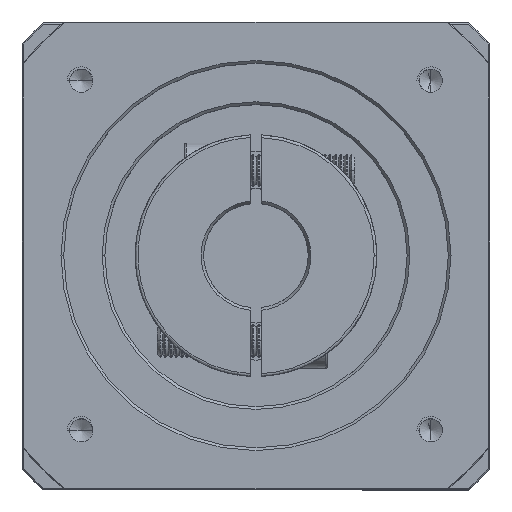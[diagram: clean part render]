
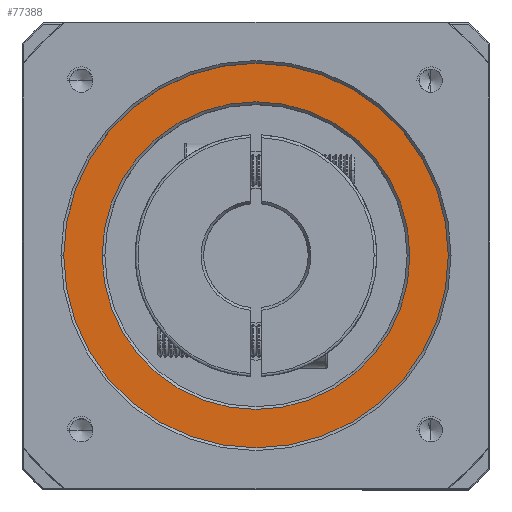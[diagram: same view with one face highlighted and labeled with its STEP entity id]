
A CAD part, top view. The second image highlights one B-rep face of the part: STEP entity #77388.
In plain terms, the highlighted planar face has unit normal (0, 0, 1).
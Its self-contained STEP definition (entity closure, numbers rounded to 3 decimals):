
#1092 = VERTEX_POINT ( 'NONE', #82766 ) ;
#2315 = VERTEX_POINT ( 'NONE', #76368 ) ;
#3626 = ORIENTED_EDGE ( 'NONE', *, *, #87761, .T. ) ;
#3762 = CARTESIAN_POINT ( 'NONE',  ( -54.569, 30.666, 21.372 ) ) ;
#4234 = CARTESIAN_POINT ( 'NONE',  ( -117.569, 30.666, 21.372 ) ) ;
#8284 = VERTEX_POINT ( 'NONE', #3762 ) ;
#13229 = AXIS2_PLACEMENT_3D ( 'NONE', #76902, #25089, #85500 ) ;
#13405 = CARTESIAN_POINT ( 'NONE',  ( -89.569, 30.666, 21.372 ) ) ;
#17204 = CIRCLE ( 'NONE', #13229, 28. ) ;
#19693 = ORIENTED_EDGE ( 'NONE', *, *, #36260, .T. ) ;
#20443 = ORIENTED_EDGE ( 'NONE', *, *, #24704, .T. ) ;
#20869 = CIRCLE ( 'NONE', #103616, 35. ) ;
#22125 = DIRECTION ( 'NONE',  ( 1., 0., 0. ) ) ;
#24704 = EDGE_CURVE ( 'NONE', #1092, #8284, #20869, .T. ) ;
#25089 = DIRECTION ( 'NONE',  ( 0., 0., -1. ) ) ;
#33193 = CARTESIAN_POINT ( 'NONE',  ( -89.569, 30.666, 21.372 ) ) ;
#34511 = CIRCLE ( 'NONE', #68705, 35. ) ;
#36231 = EDGE_LOOP ( 'NONE', ( #3626, #20443 ) ) ;
#36260 = EDGE_CURVE ( 'NONE', #2315, #50033, #80820, .T. ) ;
#40013 = DIRECTION ( 'NONE',  ( 0., 0., -1. ) ) ;
#41640 = EDGE_CURVE ( 'NONE', #50033, #2315, #17204, .T. ) ;
#42002 = DIRECTION ( 'NONE',  ( 1., 0., 0. ) ) ;
#44661 = ORIENTED_EDGE ( 'NONE', *, *, #41640, .T. ) ;
#50033 = VERTEX_POINT ( 'NONE', #4234 ) ;
#51318 = CARTESIAN_POINT ( 'NONE',  ( -89.569, 30.666, 21.372 ) ) ;
#56314 = AXIS2_PLACEMENT_3D ( 'NONE', #91508, #40013, #100046 ) ;
#59988 = DIRECTION ( 'NONE',  ( 1., 0., 0. ) ) ;
#67726 = FACE_BOUND ( 'NONE', #94101, .T. ) ;
#68298 = PLANE ( 'NONE',  #109567 ) ;
#68705 = AXIS2_PLACEMENT_3D ( 'NONE', #13405, #73962, #22125 ) ;
#73962 = DIRECTION ( 'NONE',  ( 0., 0., 1. ) ) ;
#76368 = CARTESIAN_POINT ( 'NONE',  ( -61.569, 30.666, 21.372 ) ) ;
#76902 = CARTESIAN_POINT ( 'NONE',  ( -89.569, 30.666, 21.372 ) ) ;
#77388 = ADVANCED_FACE ( 'NONE', ( #110430, #67726 ), #68298, .T. ) ;
#80820 = CIRCLE ( 'NONE', #56314, 28. ) ;
#82766 = CARTESIAN_POINT ( 'NONE',  ( -124.569, 30.666, 21.372 ) ) ;
#85500 = DIRECTION ( 'NONE',  ( 1., 0., 0. ) ) ;
#87761 = EDGE_CURVE ( 'NONE', #8284, #1092, #34511, .T. ) ;
#91508 = CARTESIAN_POINT ( 'NONE',  ( -89.569, 30.666, 21.372 ) ) ;
#93443 = DIRECTION ( 'NONE',  ( 0., 0., 1. ) ) ;
#94101 = EDGE_LOOP ( 'NONE', ( #19693, #44661 ) ) ;
#100046 = DIRECTION ( 'NONE',  ( 1., 0., 0. ) ) ;
#103616 = AXIS2_PLACEMENT_3D ( 'NONE', #33193, #93443, #42002 ) ;
#109567 = AXIS2_PLACEMENT_3D ( 'NONE', #51318, #111176, #59988 ) ;
#110430 = FACE_OUTER_BOUND ( 'NONE', #36231, .T. ) ;
#111176 = DIRECTION ( 'NONE',  ( 0., 0., 1. ) ) ;
